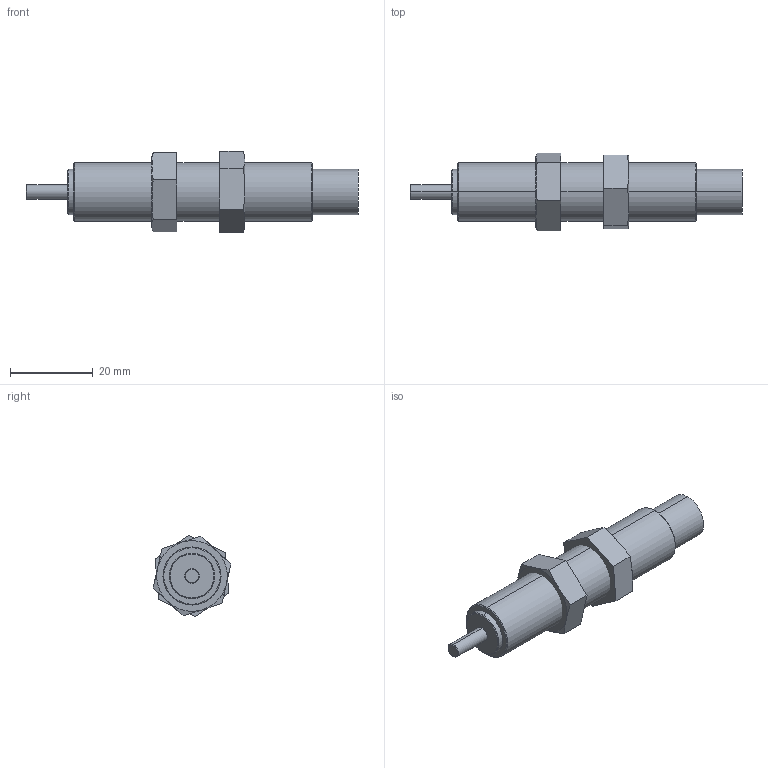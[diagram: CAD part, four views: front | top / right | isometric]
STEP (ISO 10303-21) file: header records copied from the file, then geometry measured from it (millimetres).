
FILE_DESCRIPTION (( 'STEP AP203' ), '1' );
FILE_NAME ('FSA-1410BB(CC)(CD).STEP', '2016-03-17T07:44:42', ( 'Sam Lin' ), ( '' ), 'SwSTEP 2.0', 'SolidWorks 2013', '' );
FILE_SCHEMA (( 'CONFIG_CONTROL_DESIGN' ));
Length unit declared in the file: metre
Products named in the file (3): M14x1.5-6mm_1; FSA-1410BB(CC)(CD); FSA-1410BB(CC)(CD)_1
Assembly tree (3 placements, depth 2):
  FSA-1410BB(CC)(CD)
    FSA-1410BB(CC)(CD)_1
    M14x1.5-6mm_1  x2
Bounding box: 80 x 18.75 x 19.55 mm (x, y, z)
Volume: 11660.9 mm3; surface area: 5042.7 mm2
Topology: 3 solids, 3 shells, 53 faces, 112 edges, 68 vertices
Faces by surface type: plane 21, cylinder 12, bspline 12, cone 8
Entity records: 1409 total; most frequent: CARTESIAN_POINT 333, DIRECTION 160, ORIENTED_EDGE 152, EDGE_CURVE 76, AXIS2_PLACEMENT_3D 65, VERTEX_POINT 46, EDGE_LOOP 42, FACE_OUTER_BOUND 37
